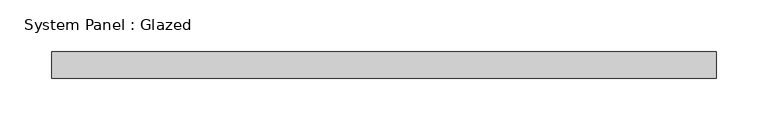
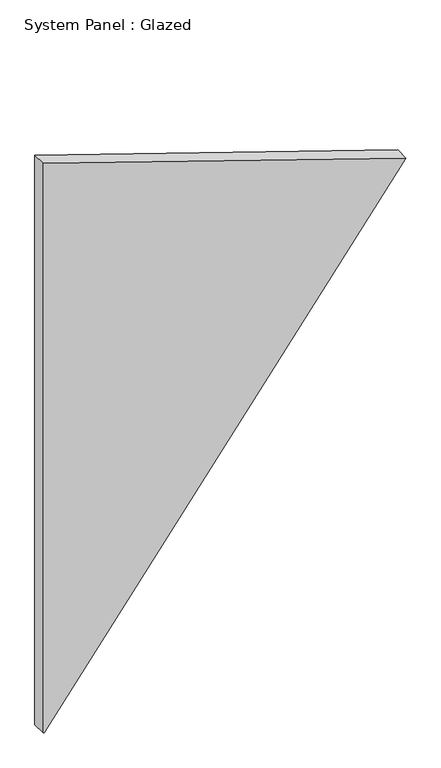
"""IFC4 building model written with IfcOpenShell, lengths in millimetres: plate geometry, System Panel : Glazed."""

from ifc_helpers import new_model, si_unit, frame, origin, place, context, project, spatial, polyline, outline, extrude, source, transform, mapped, element, save


def system_panel_glazed_1ea26782(model_context):
    return source(origin(), model_context, "Body", "SweptSolid", [
        extrude(outline(polyline([(0.5147313, -321.0064167), (0.0, -319.468004), (849.9860406, 321.0064167), (1064.790895, -320.9955397), (0.5147313, -321.0064167)])), frame((0.0, -44.45, 0.0), z_axis=(0.0, 1.0, 0.0), x_axis=(0.0, 0.0, 1.0)), (0.0, 0.0, 1.0), 25.4),
    ])


if __name__ == "__main__":
    model = new_model("IFC4")
    model_context = context("Model", 3, world=origin())
    ifc_project = project(units=[si_unit("LENGTHUNIT", "METRE", prefix="MILLI")], contexts=[model_context])
    site = spatial("IfcSite", under=ifc_project)
    building = spatial("IfcBuilding", under=site)
    placement = place(None, origin())
    system_panel_glazed_shape = system_panel_glazed_1ea26782(model_context)
    element("IfcPlate", 1, ObjectType="System Panel : Glazed", at=placement, inside=building, context=model_context, shape_type="MappedRepresentation", body=[
        mapped(system_panel_glazed_shape, transform((0.0, 0.0, 0.0), x_axis=(1.0, 0.0, 0.0), y_axis=(0.0, 1.0, 0.0), z_axis=(0.0, 0.0, 1.0))),
    ])
    save(model, "model.ifc")
